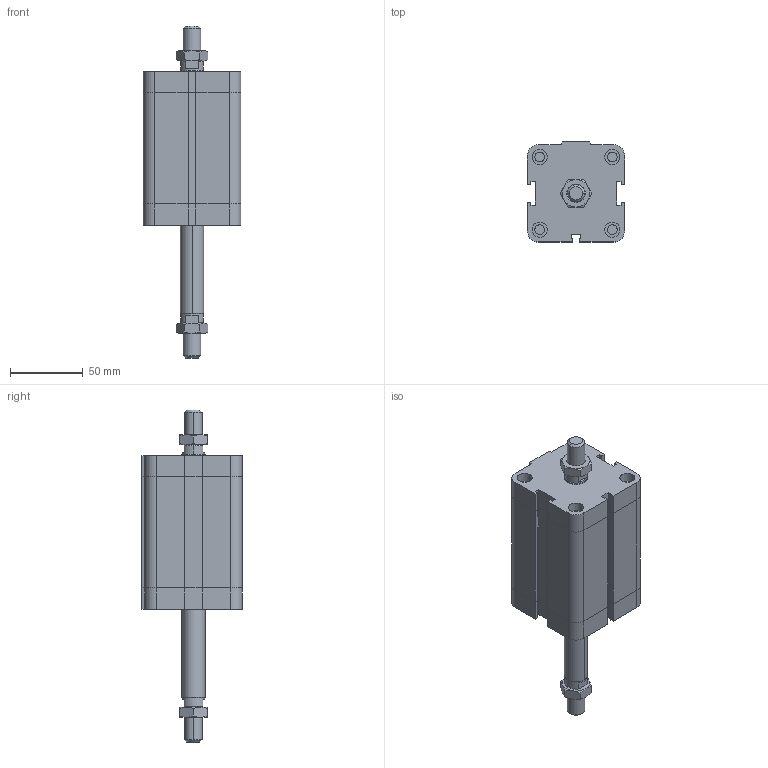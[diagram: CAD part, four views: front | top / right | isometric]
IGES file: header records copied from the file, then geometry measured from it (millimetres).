
Global section: file name: No Iges File Name specified; native system: Autodesk Inventor 2009; preprocessor: AutoDesk Inventor Iges Exporter R2009; author: maffial1; date: 20090420.200941; units: millimetre
Bounding box: 67 x 69 x 228.5 mm (x, y, z)
Volume: 466073.4 mm3; surface area: 63917.4 mm2
Topology: 4 solids, 4 shells, 260 faces, 574 edges, 342 vertices
Faces by surface type: plane 129, bspline 51, cone 38, cylinder 22, revolution 20
